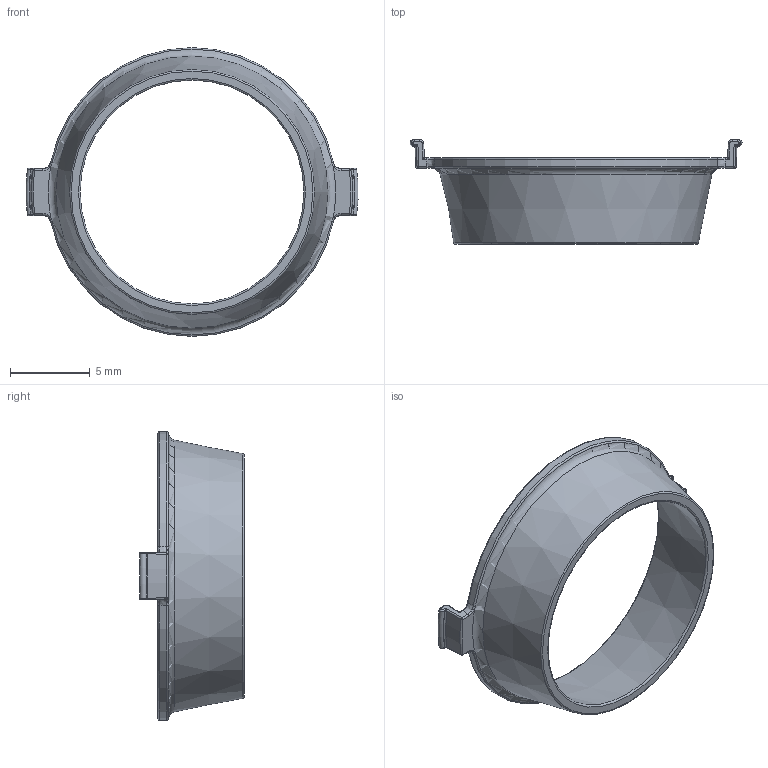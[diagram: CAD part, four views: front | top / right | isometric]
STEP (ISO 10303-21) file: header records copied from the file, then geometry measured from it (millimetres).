
FILE_DESCRIPTION(/* description */ (''),/* implementation_level */ '2;1');
FILE_NAME(/* name */ 'ARK-IR-PL-LES13.step',/* time_stamp */ '2024-10-08T10:06:41-04:00',/* author */ (''),/* organization */ (''),/* preprocessor_version */ 'ST-DEVELOPER v20',/* originating_system */ 'Autodesk Translation Framework v13.20.0.188',/* authorisation */ '');
FILE_SCHEMA (('AUTOMOTIVE_DESIGN { 1 0 10303 214 3 1 1 }'));
Length unit declared in the file: millimetre
Products named in the file (1): Inner Reflector - Snap In - LES13
Bounding box: 20.8 x 6.54 x 18.09 mm (x, y, z)
Volume: 199.5 mm3; surface area: 666.9 mm2
Topology: 1 solids, 1 shells, 106 faces, 248 edges, 136 vertices
Faces by surface type: bspline 48, torus 18, cylinder 18, plane 12, cone 6, sphere 4
Entity records: 4087 total; most frequent: CARTESIAN_POINT 1945, ORIENTED_EDGE 480, DIRECTION 376, EDGE_CURVE 240, AXIS2_PLACEMENT_3D 171, VERTEX_POINT 136, EDGE_LOOP 108, FACE_OUTER_BOUND 106
